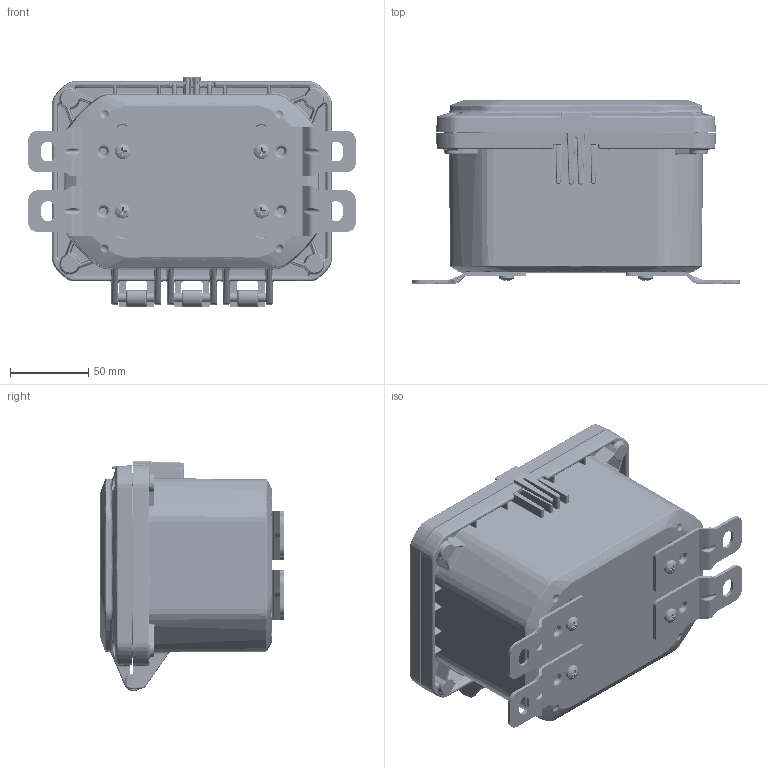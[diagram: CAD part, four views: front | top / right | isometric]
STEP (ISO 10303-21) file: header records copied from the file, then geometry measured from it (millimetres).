
FILE_DESCRIPTION (( 'STEP AP214' ), '1' );
FILE_NAME ('ZH-060404-44.STEP', '2024-10-25T16:28:52', ( '' ), ( '' ), 'SwSTEP 2.0', 'SolidWorks 2024', '' );
FILE_SCHEMA (( 'AUTOMOTIVE_DESIGN' ));
Length unit declared in the file: inch
Products named in the file (11): INSERTS-4; Z_-06041C_ZH-06041C-01; LABEL-104; Z_-06043B_ZH-06043B-01; ZH-060404-44; Z_-06041CG_ZH-06041CG-01; SCREWS-049_SCREWS-049; Z_-06043BI_ZH-06043BI-01; ZH-91F-01_ZH-91F-01; SCREWS-047_default; ZH-0604G
Assembly tree (30 placements, depth 3):
  ZH-060404-44
    Z_-06043BI_ZH-06043BI-01
      Z_-06043B_ZH-06043B-01
      INSERTS-4  x12
      LABEL-104
    Z_-06041CG_ZH-06041CG-01
      Z_-06041C_ZH-06041C-01
      ZH-0604G
    SCREWS-047_default  x4
    SCREWS-049_SCREWS-049  x4
    ZH-91F-01_ZH-91F-01  x4
Bounding box: 209.55 x 117.05 x 147.19 mm (x, y, z)
Volume: 487747 mm3; surface area: 291555.6 mm2
Topology: 28 solids, 28 shells, 5748 faces, 14115 edges, 8420 vertices
Faces by surface type: bspline 1651, cylinder 1346, plane 1319, cone 628, torus 598, sphere 206
Entity records: 210142 total; most frequent: CARTESIAN_POINT 122752, ORIENTED_EDGE 20248, DIRECTION 16081, EDGE_CURVE 10124, AXIS2_PLACEMENT_3D 6787, VERTEX_POINT 5892, EDGE_LOOP 4430, ADVANCED_FACE 4325
